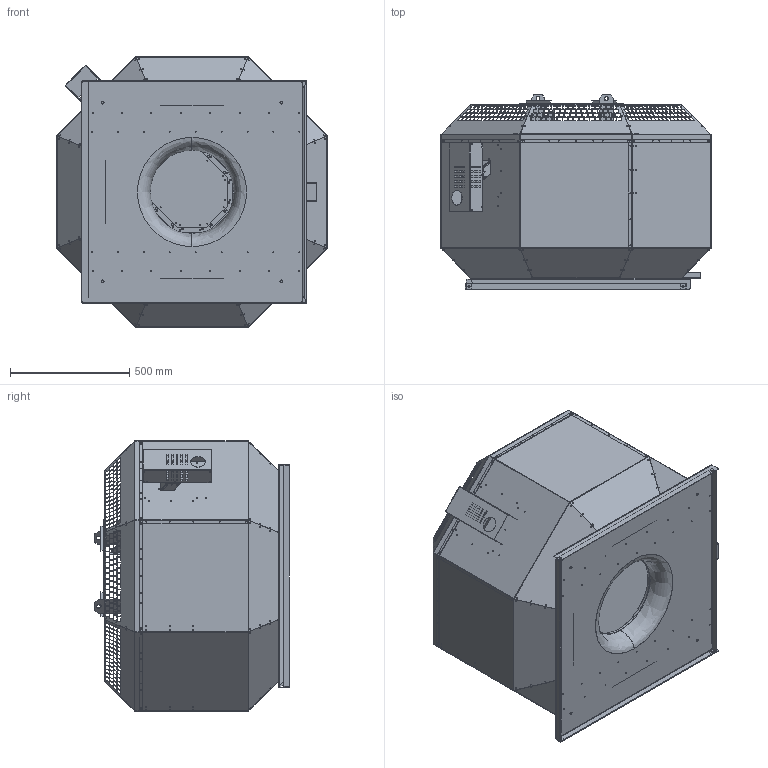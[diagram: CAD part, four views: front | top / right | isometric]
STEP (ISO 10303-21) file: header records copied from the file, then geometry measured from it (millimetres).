
FILE_DESCRIPTION (( 'STEP AP203' ), '1' );
FILE_NAME ('142191-00_DVN560D4F430_step.step', '2018-07-31T12:20:05', ( '' ), ( '' ), 'SwSTEP 2.0', 'SolidWorks 2017', '' );
FILE_SCHEMA (( 'CONFIG_CONTROL_DESIGN' ));
Products named in the file (1): 142191-00_DVN560D4F430_step
Bounding box: 1136 x 817.7 x 1136 mm (x, y, z)
Surface area: 9862384.2 mm2 (no closed solid volume)
Topology: 0 solids, 56 shells, 2044 faces, 16785 edges, 13625 vertices
Faces by surface type: plane 1603, cylinder 423, bspline 14, torus 4
Entity records: 158661 total; most frequent: CARTESIAN_POINT 33323, DIRECTION 22958, ORIENTED_EDGE 20987, EDGE_CURVE 16785, VECTOR 14414, LINE 14414, VERTEX_POINT 13625, EDGE_LOOP 5647
